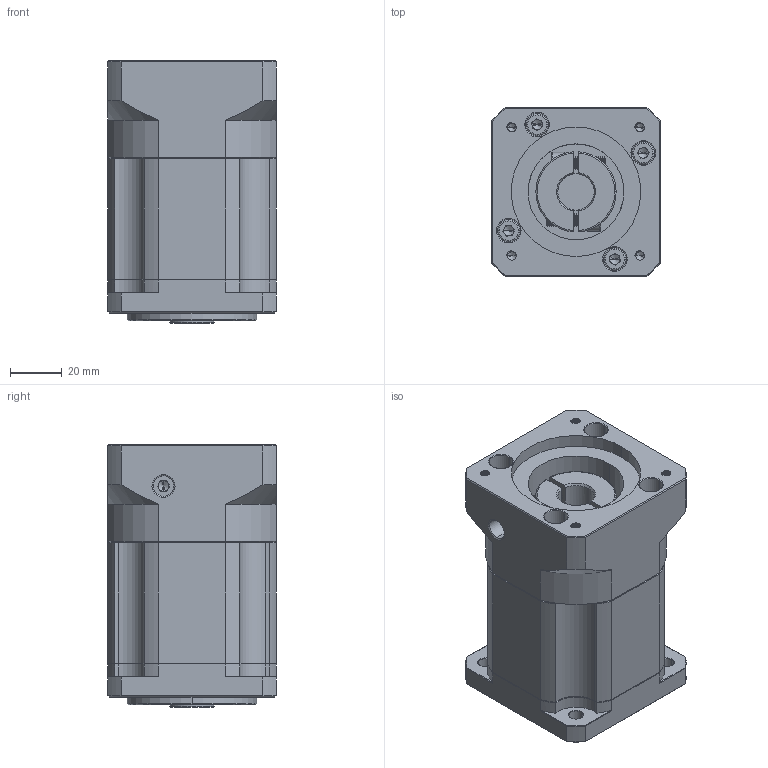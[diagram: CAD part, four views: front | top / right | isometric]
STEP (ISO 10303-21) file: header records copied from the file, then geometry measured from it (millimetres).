
FILE_DESCRIPTION (( 'STEP AP214' ), '1' );
FILE_NAME ('ZB060-K10-L2-P2-14-50-70-M4.step', '2023-08-16T07:11:11', ( '' ), ( '' ), 'SwSTEP 2.0', 'SolidWorks 2016', '' );
FILE_SCHEMA (( 'AUTOMOTIVE_DESIGN' ));
Length unit declared in the file: millimetre
Products named in the file (1): ZB060-K10-L2-P2-14-50-70-M4
Bounding box: 65 x 65 x 101.5 mm (x, y, z)
Volume: 322313.4 mm3; surface area: 57503.8 mm2
Topology: 6 solids, 6 shells, 2099 faces, 5650 edges, 3642 vertices
Faces by surface type: plane 1056, bspline 390, cylinder 342, cone 277, torus 34
Entity records: 108890 total; most frequent: CARTESIAN_POINT 35956, ORIENTED_EDGE 11244, DIRECTION 8938, EDGE_CURVE 5622, VERTEX_POINT 3642, LINE 3582, VECTOR 3582, AXIS2_PLACEMENT_3D 2678
